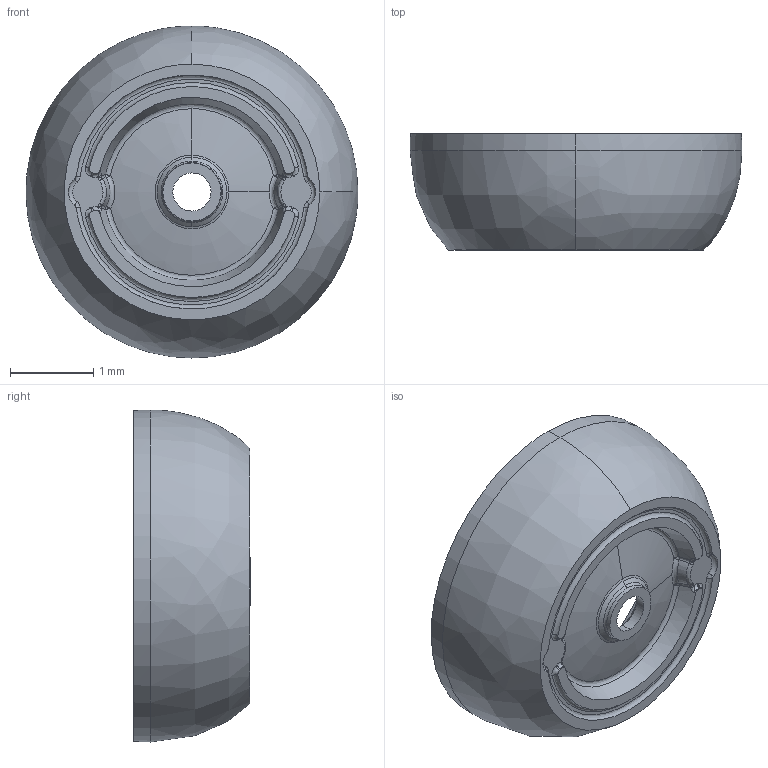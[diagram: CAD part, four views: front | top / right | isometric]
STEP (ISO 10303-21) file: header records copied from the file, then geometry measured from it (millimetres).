
FILE_DESCRIPTION(/* description */ (''),/* implementation_level */ '2;1');
FILE_NAME(/* name */ 'ECI4014',/* time_stamp */ '2017-12-11T11:55:38+01:00',/* author */ (''),/* organization */ (''),/* preprocessor_version */ 'ST-DEVELOPER v15',/* originating_system */ '',/* authorisation */ '');
FILE_SCHEMA (('AUTOMOTIVE_DESIGN'));
Length unit declared in the file: centimetre
Products named in the file (1): Document
Bounding box: 4 x 1.4 x 4 mm (x, y, z)
Volume: 5.1 mm3; surface area: 45.9 mm2
Topology: 1 solids, 1 shells, 82 faces, 200 edges, 122 vertices
Faces by surface type: bspline 76, plane 6
Entity records: 5792 total; most frequent: CARTESIAN_POINT 4742, ORIENTED_EDGE 386, EDGE_CURVE 193, VERTEX_POINT 115, EDGE_LOOP 86, ADVANCED_FACE 82, FACE_OUTER_BOUND 82, B_SPLINE_CURVE_WITH_KNOTS 46
